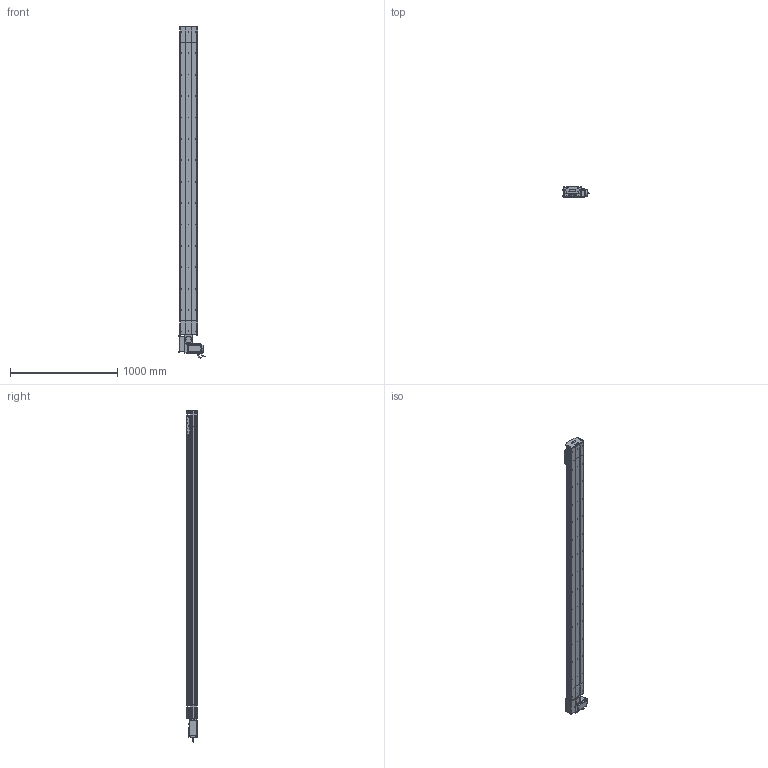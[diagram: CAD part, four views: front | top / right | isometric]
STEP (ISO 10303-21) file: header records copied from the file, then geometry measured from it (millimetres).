
FILE_DESCRIPTION (( 'STEP AP214' ), '1' );
FILE_NAME ('D17 TBH RH S2600.STEP', '2010-06-30T08:48:29', ( 'Christophe Gaillard' ), ( 'SGA' ), 'SwSTEP 2.0', 'SolidWorks 2010', '' );
FILE_SCHEMA (( 'AUTOMOTIVE_DESIGN' ));
Length unit declared in the file: millimetre
Products named in the file (40): poulie head_Default; codeur 90BLDC125-640; Plaque racord D17_Default; couroie head D17_Default; couvercle D17B head_Default; Arbre+rail head D17B; cache D17_Default; plaque de  bout head D17B RH_Default; Tail D17B_Default; Renvoi RH_Default; cache arbre D17_Default; plaque de  bout tail D17B_Default; Rail D17B; tete d''axe poulie D17B; corpl tail D17B_Default; couvercle D17B_Default; Couroie tail D17B_Default; poulie tail_Default; chariot D17S_Default; vis M5 L25_Default; vis M5 L8 90°_Default; vis M5 L12_Default; guide D17; Chariot D17; Moteur motionking 90BLDC125A-640; Vis M5 L16-2_Default; Conecteur2_Default; avant 90BLDC125A-640; vis M5 L70_Default; D17 TBH RH S2600; vis M5 L16_Default; Conecteur_Default; course 2600 D17B_Default; corp D17B 2600_Default; Couroie+ rail D17 Course 2600 ; corps 90BLDC125A-640; vis M5 L5_Default; couvercle D17B course L2600_Default; Head RH D17B_Default; corpl head D17 _Default
Assembly tree (70 placements, depth 4):
  D17 TBH RH S2600
    course 2600 D17B_Default
      corp D17B 2600_Default
      Couroie+ rail D17 Course 2600 
      couvercle D17B course L2600_Default
    chariot D17S_Default
      guide D17  x2
      vis M5 L12_Default  x4
      Chariot D17
    Head RH D17B_Default
      vis M5 L5_Default  x4
      couvercle D17B head_Default
      Arbre+rail head D17B
      Plaque racord D17_Default
      vis M5 L12_Default  x8
      Vis M5 L16-2_Default  x4
      vis M5 L16_Default  x2
      cache D17_Default  x2
      vis M5 L70_Default  x4
      poulie head_Default
      plaque de  bout head D17B RH_Default
      vis M5 L25_Default  x2
      Moteur motionking 90BLDC125A-640
        corps 90BLDC125A-640
        avant 90BLDC125A-640
        codeur 90BLDC125-640
        Conecteur2_Default
        Conecteur_Default
      corpl head D17 _Default
      Renvoi RH_Default
      cache arbre D17_Default
      couroie head D17_Default
    Tail D17B_Default
      vis M5 L25_Default  x2
      tete d''axe poulie D17B
      plaque de  bout tail D17B_Default
      vis M5 L12_Default  x4
      vis M5 L8 90°_Default  x2
      Couroie tail D17B_Default
      corpl tail D17B_Default
      poulie tail_Default
      couvercle D17B_Default
      Rail D17B
Bounding box: 245.2 x 105.65 x 3100.95 mm (x, y, z)
Volume: 17392796.7 mm3; surface area: 5044206.6 mm2
Topology: 94 solids, 94 shells, 2749 faces, 6997 edges, 4502 vertices
Faces by surface type: plane 1607, cylinder 829, bspline 136, cone 88, torus 85, sphere 4
Entity records: 86784 total; most frequent: CARTESIAN_POINT 25497, ORIENTED_EDGE 10766, DIRECTION 10204, EDGE_CURVE 5383, VERTEX_POINT 3526, VECTOR 3518, LINE 3518, AXIS2_PLACEMENT_3D 3343
